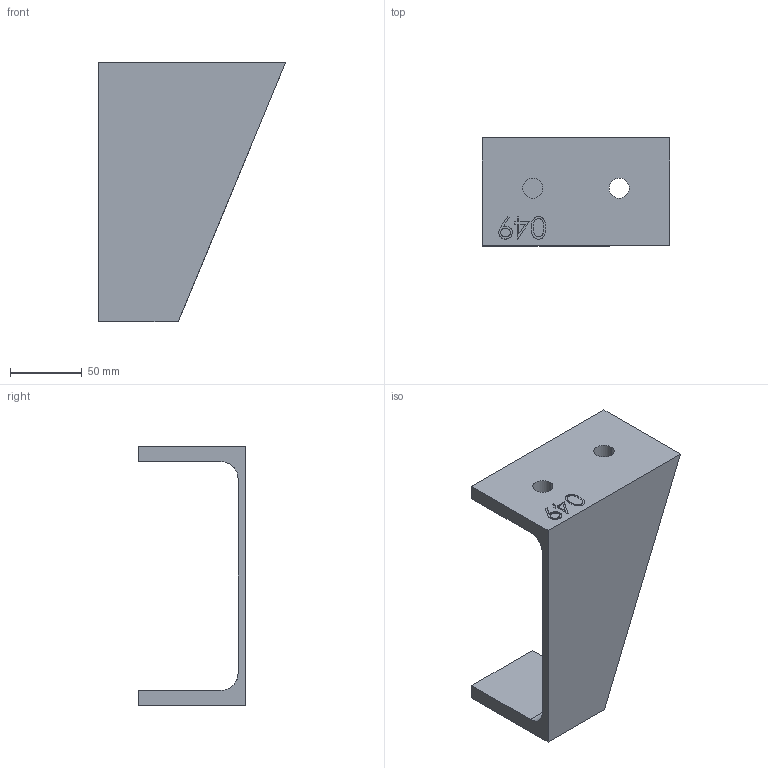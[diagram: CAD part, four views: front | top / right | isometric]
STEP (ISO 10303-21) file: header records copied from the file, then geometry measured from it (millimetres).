
FILE_DESCRIPTION (( 'STEP AP214' ), '1' );
FILE_NAME ('CCJ029-REP.049 - MONTANT ESCALIER SUPERIEUR DOUBLE 1.STEP', '2024-01-31T09:09:28', ( '' ), ( '' ), 'SwSTEP 2.0', 'SolidWorks 2021', '' );
FILE_SCHEMA (( 'AUTOMOTIVE_DESIGN' ));
Length unit declared in the file: millimetre
Products named in the file (1): CCJ029-REP.049 - MONTANT ESCALIER SUPERIEUR DOUBLE 1
Bounding box: 130 x 75 x 180 mm (x, y, z)
Volume: 229544.2 mm3; surface area: 64860.3 mm2
Topology: 1 solids, 1 shells, 56 faces, 144 edges, 96 vertices
Faces by surface type: plane 32, bspline 18, cylinder 6
Entity records: 2932 total; most frequent: CARTESIAN_POINT 1641, ORIENTED_EDGE 288, DIRECTION 194, EDGE_CURVE 144, LINE 96, VECTOR 96, VERTEX_POINT 96, EDGE_LOOP 66
